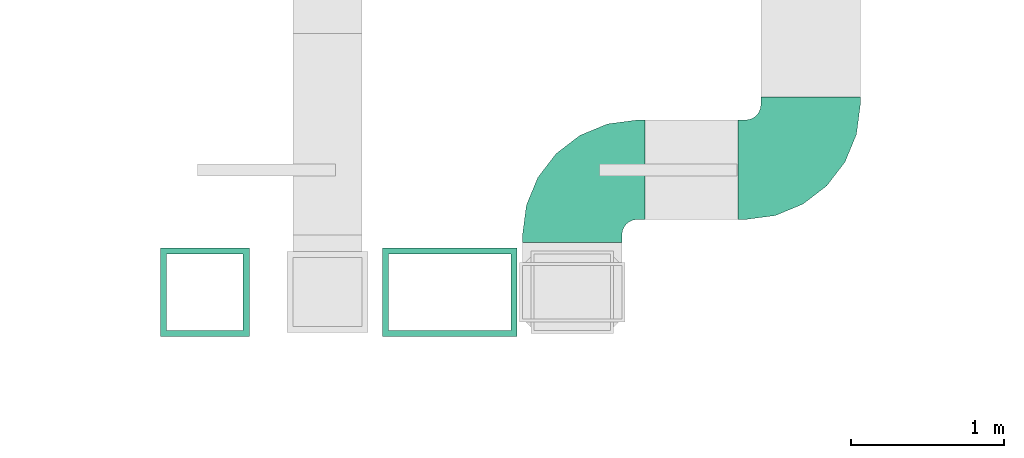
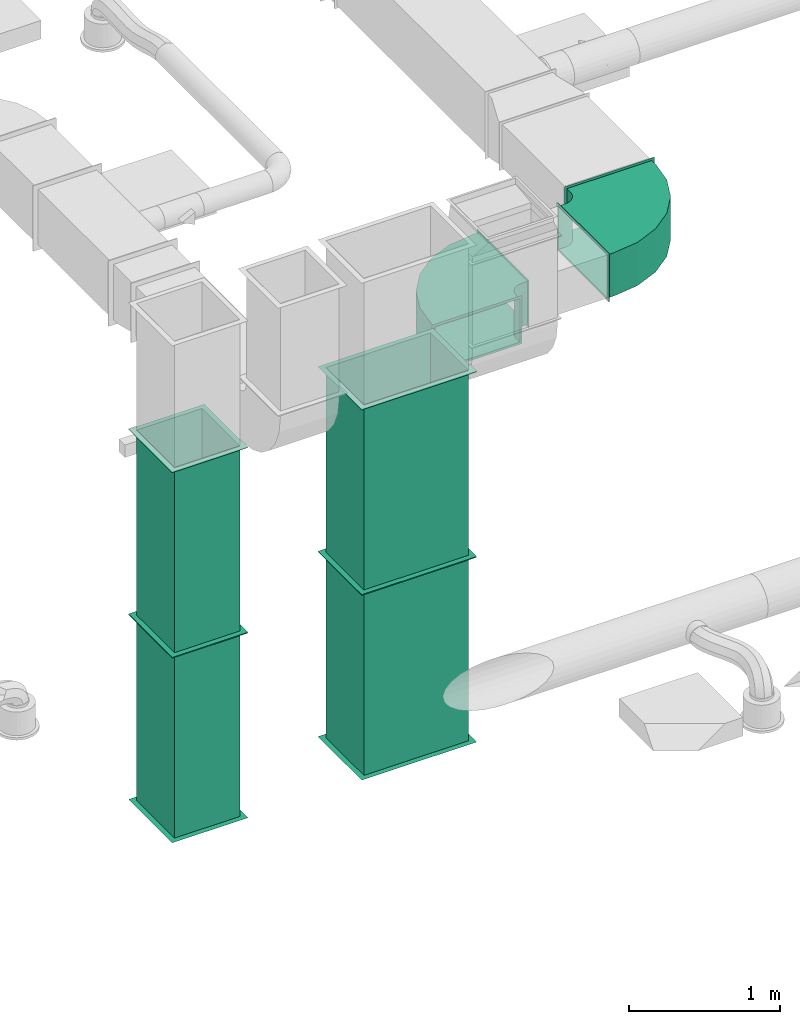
# One storey, part 3 of 119: 4 flow segments, 2 flow fittings.
"""IFC2X3 building model written with IfcOpenShell, lengths in metres."""

from ifc_helpers import new_model, si_unit, direction, frame, origin, place, context, subcontext, project, spatial, open_shell, surface_model, source, transform, mapped, element, save


model = new_model("IFC2X3")

# Units and contexts
model_context = context("Model", 3, precision=1e-05, world=origin(), true_north=direction((-0.4480736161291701, 0.8939966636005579)))
body_context = subcontext(model_context, "Body", "Model", "MODEL_VIEW")
ifc_project = project(units=[si_unit("LENGTHUNIT", "METRE"), si_unit("AREAUNIT", "SQUARE_METRE"), si_unit("VOLUMEUNIT", "CUBIC_METRE"), si_unit("PLANEANGLEUNIT", "RADIAN"), si_unit("THERMODYNAMICTEMPERATUREUNIT", "KELVIN"), si_unit("MASSUNIT", "GRAM", prefix="KILO"), si_unit("TIMEUNIT", "SECOND")], contexts=[model_context])

# Site, building, storey
site_placement = place(None, origin())
site = spatial("IfcSite", under=ifc_project, at=site_placement, Name="Site 1", CompositionType="ELEMENT")
building_placement = place(site_placement, origin())
building = spatial("IfcBuilding", under=site, at=building_placement, Name="Undefined", CompositionType="ELEMENT")
storey_placement = place(building_placement, frame((0.0, 0.0, 5.4)))
storey = spatial("IfcBuildingStorey", under=building, at=storey_placement, Name="R+1", CompositionType="ELEMENT", Elevation=5.4)

# Flow segments
shared_shape_1 = source(origin(), body_context, "Body", "SurfaceModel", [
    surface_model("IfcFaceBasedSurfaceModel", [(0.0, 0.0, 0.0), (0.5800000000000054, 0.0, 0.0), (0.5400000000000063, 0.040000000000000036, 0.0), (0.04000000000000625, 0.040000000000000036, 0.0), (0.5800000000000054, 0.5800000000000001, 0.0), (0.5400000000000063, 0.54, 0.0), (0.0, 0.5800000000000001, 0.0), (0.04000000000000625, 0.54, 0.0), (0.0, 0.0, -1.4939999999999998), (0.5800000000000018, 0.0, -1.4939999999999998), (0.5399999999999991, 0.040000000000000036, -1.4939999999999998), (0.03999999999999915, 0.040000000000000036, -1.4939999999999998), (0.5800000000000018, 0.5800000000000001, -1.4939999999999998), (0.5399999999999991, 0.54, -1.4939999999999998), (0.0, 0.5800000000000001, -1.4939999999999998), (0.03999999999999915, 0.54, -1.4939999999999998), (0.04000000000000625, 0.54, 0.0030000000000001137), (0.03999999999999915, 0.54, -1.4969999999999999), (0.03999999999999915, 0.040000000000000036, -1.4969999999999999), (0.04000000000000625, 0.040000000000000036, 0.0030000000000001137), (0.5399999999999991, 0.040000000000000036, -1.4969999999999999), (0.5400000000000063, 0.040000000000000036, 0.0030000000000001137), (0.5399999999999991, 0.54, -1.4969999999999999), (0.5400000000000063, 0.54, 0.0030000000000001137)], [open_shell([[[0, 1, 2, 3]], [[1, 4, 5, 2]], [[6, 4, 5, 7]], [[0, 6, 7, 3]], [[8, 9, 10, 11]], [[9, 12, 13, 10]], [[14, 12, 13, 15]], [[8, 14, 15, 11]], [[16, 17, 18, 19]], [[19, 18, 20, 21]], [[21, 20, 22, 23]], [[23, 22, 17, 16]]])]),
])
flow_segment_1_placement = place(storey_placement, origin())
element("IfcFlowSegment", 1, at=flow_segment_1_placement, inside=storey, Name="Gaine de ventilation", ObjectType="Gaine de ventilation", context=body_context, shape_type="MappedRepresentation", body=[
    mapped(shared_shape_1, transform((50.62499663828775, 12.203999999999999, 0.003000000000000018), x_axis=(0.0, -1.0, 0.0), y_axis=(-1.0, 0.0, 0.0), z_axis=(0.0, 0.0, -1.0))),
])
flow_segment_2_placement = place(storey_placement, origin())
element("IfcFlowSegment", 2, at=flow_segment_2_placement, inside=storey, Name="Gaine de ventilation", ObjectType="Gaine de ventilation", context=body_context, shape_type="MappedRepresentation", body=[
    mapped(shared_shape_1, transform((50.62499663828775, 12.203999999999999, 1.5030000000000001), x_axis=(0.0, -1.0, 0.0), y_axis=(-1.0, 0.0, 0.0), z_axis=(0.0, 0.0, -1.0))),
])
shared_shape_2 = source(origin(), body_context, "Body", "SurfaceModel", [
    surface_model("IfcFaceBasedSurfaceModel", [(0.0, 0.0, 0.0), (0.5800000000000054, 0.0, 0.0), (0.5400000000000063, 0.040000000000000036, 0.0), (0.04000000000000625, 0.040000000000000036, 0.0), (0.5800000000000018, 0.8799999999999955, 0.0), (0.5400000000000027, 0.8399999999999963, 0.0), (1.776356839e-15, 0.8799999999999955, 0.0), (0.0400000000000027, 0.8399999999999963, 0.0), (0.0, 0.0, -1.4939999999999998), (0.5800000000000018, 0.0, -1.4939999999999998), (0.5399999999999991, 0.040000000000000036, -1.4939999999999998), (0.03999999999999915, 0.040000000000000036, -1.4939999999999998), (0.5800000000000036, 0.8799999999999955, -1.494), (0.5400000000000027, 0.8399999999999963, -1.494), (3.552713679e-15, 0.8799999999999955, -1.494), (0.0400000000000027, 0.8399999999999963, -1.494), (0.0400000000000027, 0.8399999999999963, 0.0029999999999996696), (0.0400000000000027, 0.8399999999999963, -1.4969999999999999), (0.03999999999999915, 0.040000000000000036, -1.4969999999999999), (0.04000000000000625, 0.040000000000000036, 0.0030000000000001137), (0.5399999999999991, 0.040000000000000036, -1.4969999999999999), (0.5400000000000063, 0.040000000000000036, 0.0030000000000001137), (0.5400000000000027, 0.8399999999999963, -1.4969999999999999), (0.5400000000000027, 0.8399999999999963, 0.0029999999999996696)], [open_shell([[[0, 1, 2, 3]], [[1, 4, 5, 2]], [[6, 4, 5, 7]], [[0, 6, 7, 3]], [[8, 9, 10, 11]], [[9, 12, 13, 10]], [[14, 12, 13, 15]], [[8, 14, 15, 11]], [[16, 17, 18, 19]], [[19, 18, 20, 21]], [[21, 20, 22, 23]], [[23, 22, 17, 16]]])]),
])
flow_segment_3_placement = place(storey_placement, origin())
element("IfcFlowSegment", 3, at=flow_segment_3_placement, inside=storey, Name="Gaine de ventilation", ObjectType="Gaine de ventilation", context=body_context, shape_type="MappedRepresentation", body=[
    mapped(shared_shape_2, transform((52.37499507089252, 12.204000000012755, 0.0030000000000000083), x_axis=(0.0, -1.0, 0.0), y_axis=(-1.0, 0.0, 0.0), z_axis=(0.0, 0.0, -1.0))),
])
flow_segment_4_placement = place(storey_placement, origin())
element("IfcFlowSegment", 4, at=flow_segment_4_placement, inside=storey, Name="Gaine de ventilation", ObjectType="Gaine de ventilation", context=body_context, shape_type="MappedRepresentation", body=[
    mapped(shared_shape_2, transform((52.37499507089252, 12.204000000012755, 1.5030000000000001), x_axis=(0.0, -1.0, 0.0), y_axis=(-1.0, 0.0, 0.0), z_axis=(0.0, 0.0, -1.0))),
])

# Flow fittings
shared_shape_3 = source(origin(), body_context, "Body", "SurfaceModel", [
    surface_model("IfcFaceBasedSurfaceModel", [(0.0, 0.0, 0.0), (0.6899999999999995, 0.0, 0.0), (0.6699999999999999, 0.020000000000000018, 0.0), (0.019999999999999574, 0.020000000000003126, 0.0), (0.6899999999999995, 0.3900000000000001, 0.0), (0.6699999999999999, 0.3700000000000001, 0.0), (0.0, 0.3900000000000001, 0.0), (0.019999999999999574, 0.3700000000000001, 0.0), (0.8170000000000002, 0.0, -0.8170000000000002), (0.8170000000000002, 0.0, -0.12699999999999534), (0.8170000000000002, 0.020000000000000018, -0.14699999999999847), (0.8170000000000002, 0.020000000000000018, -0.796999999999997), (0.8170000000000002, 0.3900000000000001, -0.12699999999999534), (0.8170000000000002, 0.3700000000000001, -0.14699999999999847), (0.8170000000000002, 0.3900000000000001, -0.8170000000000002), (0.8170000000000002, 0.3700000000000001, -0.796999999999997), (0.019999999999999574, 0.3700000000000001, -0.046999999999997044), (0.04555563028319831, 0.3700000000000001, -0.2411142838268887), (0.04555563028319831, 0.020000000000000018, -0.2411142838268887), (0.019999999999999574, 0.020000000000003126, -0.04699999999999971), (0.1204809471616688, 0.3700000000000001, -0.42199999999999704), (0.1204809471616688, 0.020000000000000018, -0.42199999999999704), (0.2396699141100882, 0.3700000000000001, -0.5773300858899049), (0.2396699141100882, 0.020000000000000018, -0.5773300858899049), (0.3949999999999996, 0.3700000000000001, -0.696519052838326), (0.3949999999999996, 0.020000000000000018, -0.696519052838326), (0.5758857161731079, 0.3700000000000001, -0.7714443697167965), (0.5758857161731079, 0.020000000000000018, -0.7714443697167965), (0.7699999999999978, 0.3700000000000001, -0.796999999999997), (0.7699999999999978, 0.020000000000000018, -0.796999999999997), (0.019999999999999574, 0.020000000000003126, 0.0030000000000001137), (0.019999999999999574, 0.3700000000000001, 0.0030000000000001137), (0.6699999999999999, 0.020000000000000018, 0.0030000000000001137), (0.6699999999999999, 0.020000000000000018, -0.046999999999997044), (0.6699999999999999, 0.3700000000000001, -0.046999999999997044), (0.6699999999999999, 0.3700000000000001, 0.0030000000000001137), (0.7699999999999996, 0.3700000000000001, -0.14699999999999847), (0.7441180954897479, 0.3700000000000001, -0.14359258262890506), (0.7441180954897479, 0.020000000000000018, -0.14359258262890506), (0.7699999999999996, 0.020000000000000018, -0.14699999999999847), (0.7199999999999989, 0.3700000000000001, -0.13360254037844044), (0.7199999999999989, 0.020000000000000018, -0.13360254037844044), (0.699289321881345, 0.3700000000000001, -0.1177106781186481), (0.699289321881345, 0.020000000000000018, -0.1177106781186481), (0.6833974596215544, 0.3700000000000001, -0.0969999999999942), (0.6833974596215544, 0.020000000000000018, -0.0969999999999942), (0.6734074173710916, 0.3700000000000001, -0.0728819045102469), (0.6734074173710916, 0.020000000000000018, -0.0728819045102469), (0.8200000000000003, 0.020000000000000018, -0.14699999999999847), (0.8200000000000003, 0.3700000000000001, -0.14699999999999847), (0.8200000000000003, 0.020000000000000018, -0.796999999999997), (0.8200000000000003, 0.3700000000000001, -0.796999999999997)], [open_shell([[[0, 1, 2, 3]], [[1, 4, 5, 2]], [[6, 4, 5, 7]], [[0, 6, 7, 3]], [[8, 9, 10, 11]], [[9, 12, 13, 10]], [[14, 12, 13, 15]], [[8, 14, 15, 11]], [[16, 17, 18, 19]], [[17, 20, 21, 18]], [[20, 22, 23, 21]], [[22, 24, 25, 23]], [[24, 26, 27, 25]], [[26, 28, 29, 27]], [[19, 30, 31, 16]], [[32, 33, 34, 35]], [[36, 37, 38, 39]], [[37, 40, 41, 38]], [[40, 42, 43, 41]], [[42, 44, 45, 43]], [[44, 46, 47, 45]], [[46, 34, 33, 47]], [[39, 48, 49, 36]], [[50, 29, 28, 51]], [[17, 16, 46]], [[17, 46, 44]], [[17, 44, 42]], [[17, 42, 40]], [[17, 40, 37]], [[17, 37, 36]], [[17, 36, 51]], [[17, 51, 20]], [[34, 46, 16]], [[34, 16, 31]], [[34, 31, 35]], [[51, 28, 26]], [[51, 26, 24]], [[51, 24, 22]], [[51, 22, 20]], [[51, 36, 49]], [[47, 19, 18]], [[45, 47, 18]], [[43, 45, 18]], [[41, 43, 18]], [[38, 41, 18]], [[39, 38, 18]], [[50, 39, 18]], [[21, 50, 18]], [[19, 47, 33]], [[30, 19, 33]], [[32, 30, 33]], [[27, 29, 50]], [[25, 27, 50]], [[23, 25, 50]], [[21, 23, 50]], [[48, 39, 50]]])]),
])
flow_fitting_1_placement = place(storey_placement, origin())
element("IfcFlowFitting", 5, at=flow_fitting_1_placement, inside=storey, Name="Coude symétrique", ObjectType="Coude symétrique", context=body_context, shape_type="MappedRepresentation", body=[
    mapped(shared_shape_3, transform((53.20699520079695, 13.05900000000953, 2.9949999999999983), x_axis=(0.0, -1.0, 0.0), y_axis=(0.0, 0.0, -1.0), z_axis=(1.0, 0.0, 0.0))),
])
flow_fitting_2_placement = place(storey_placement, origin())
element("IfcFlowFitting", 6, at=flow_fitting_2_placement, inside=storey, Name="Coude symétrique", ObjectType="Coude symétrique", context=body_context, shape_type="MappedRepresentation", body=[
    mapped(shared_shape_3, transform((54.63771088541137, 13.18600000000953, 2.604999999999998), x_axis=(-1.0, 0.0, 0.0), y_axis=(0.0, 0.0, 1.0), z_axis=(0.0, 1.0, 0.0))),
])

save(model, "model.ifc")
